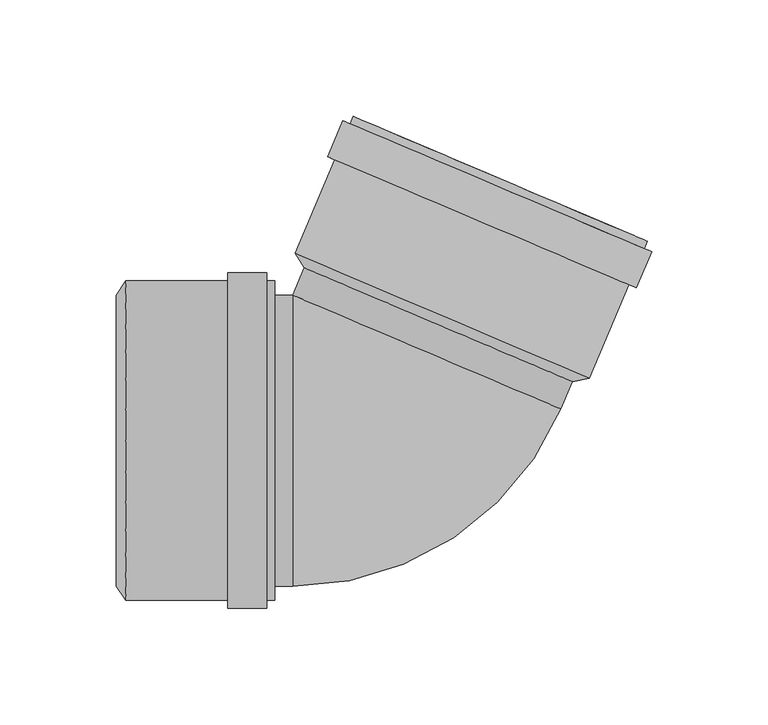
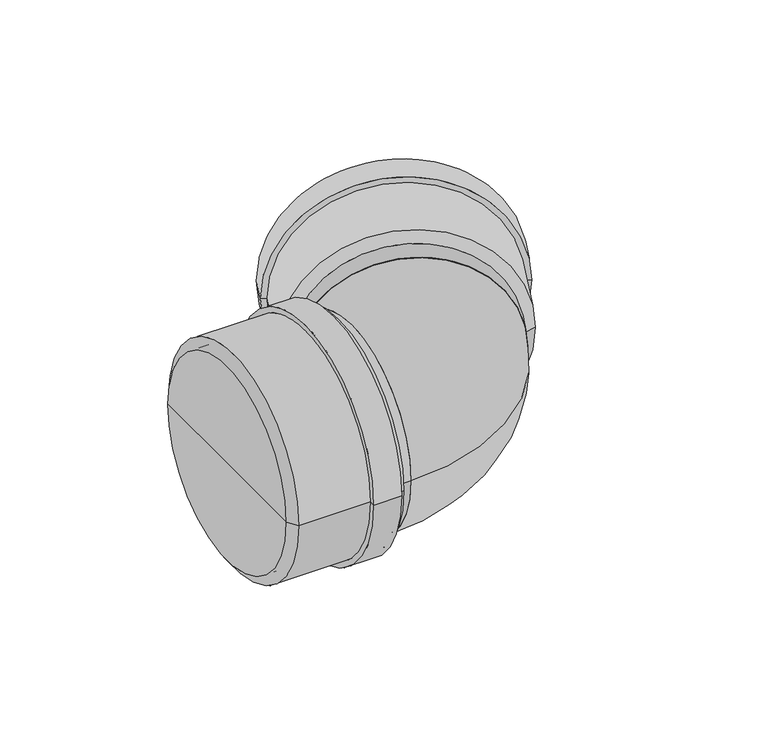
"""IFC4 building model written with IfcOpenShell, lengths in millimetres: pipe fitting geometry, pf_KGB : pf_KGB."""

from ifc_helpers import new_model, si_unit, point, frame, origin, origin_2d, place, context, project, spatial, polyline, circle_curve, ellipse_curve, trimmed, segment, composite_curve, outline, extrude, source, transform, mapped, element, save
from ifc_brep_helpers import plane_surface, cylinder_surface, revolved_surface, advanced_brep


def pipe_fitting_437f7f8f(model_context):
    return source(origin(), model_context, "Body", "SolidModel", [
        advanced_brep(
        [(78.6701074, 25.378617, 0.0), (-36.3929993, 74.2200081, 0.0), (-40.4060813, 80.3775379, 0.0), (85.8871846, 26.7692271, 0.0), (21.1385541, 49.7993126, 0.0), (110.8549037, 85.5894872, 0.0), (-15.4383622, 139.197798, 0.0), (-9.8232826, 136.8143381, 0.0), (105.2398241, 87.9729471, 0.0), (-16.766848, 136.0680815, 0.0), (109.5264179, 82.4597707, 0.0), (-19.8965645, 137.3965674, 0.0), (112.6561344, 81.1312849, 0.0), (-26.4608475, 121.9320858, 0.0), (106.0918514, 65.6668033, 0.0), (-23.331131, 120.6036, 0.0), (102.9621349, 66.9952892, 0.0), (80.272105, 29.1526869, 0.0), (-34.7910017, 77.994078, 0.0), (22.7405517, 53.5733825, 0.0)],
        [
            (0, 1, circle_curve(frame((21.1385541, 49.7993126, 0.0), z_axis=(0.39073112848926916, 0.9205048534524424, 0.0), x_axis=(-0.9205048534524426, 0.3907311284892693, 0.0)), 62.5)),
            (1, 2),
            (2, 3, circle_curve(frame((22.7405517, 53.5733825, 0.0), z_axis=(-0.39073112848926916, -0.9205048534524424, 0.0), x_axis=(-0.9205048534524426, 0.3907311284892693, 0.0)), 68.6)),
            (3, 0),
            (1, 0, circle_curve(frame((21.1385541, 49.7993126, 0.0), z_axis=(0.39073112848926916, 0.9205048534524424, 0.0), x_axis=(-0.9205048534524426, 0.3907311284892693, 0.0)), 62.5)),
            (3, 2, circle_curve(frame((22.7405517, 53.5733825, 0.0), z_axis=(-0.39073112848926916, -0.9205048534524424, 0.0), x_axis=(-0.9205048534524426, 0.3907311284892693, 0.0)), 68.6)),
            (4, 1),
            (0, 4),
            (5, 6, circle_curve(frame((47.7082708, 112.3936426, 0.0), z_axis=(0.39073112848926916, 0.9205048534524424, 0.0), x_axis=(-0.9205048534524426, 0.3907311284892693, 0.0)), 68.6)),
            (6, 7),
            (7, 8, circle_curve(frame((47.7082708, 112.3936426, 0.0), z_axis=(-0.39073112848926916, -0.9205048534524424, 0.0), x_axis=(-0.9205048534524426, 0.3907311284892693, 0.0)), 62.5)),
            (8, 5),
            (9, 10, circle_curve(frame((46.379785, 109.2639261, 0.0), z_axis=(0.39073112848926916, 0.9205048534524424, 0.0), x_axis=(-0.9205048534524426, 0.3907311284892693, 0.0)), 68.6)),
            (10, 5),
            (5, 6, circle_curve(frame((47.7082708, 112.3936426, 0.0), z_axis=(-0.39073112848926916, -0.9205048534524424, 0.0), x_axis=(-0.9205048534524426, 0.3907311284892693, 0.0)), 68.6)),
            (6, 9),
            (11, 12, circle_curve(frame((46.379785, 109.2639261, 0.0), z_axis=(0.39073112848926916, 0.9205048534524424, 0.0), x_axis=(-0.9205048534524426, 0.3907311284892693, 0.0)), 72.0)),
            (12, 10),
            (9, 11),
            (13, 14, circle_curve(frame((39.815502, 93.7994446, 0.0), z_axis=(0.39073112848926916, 0.9205048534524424, 0.0), x_axis=(-0.9205048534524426, 0.3907311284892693, 0.0)), 72.0)),
            (14, 12),
            (11, 13),
            (15, 16, circle_curve(frame((39.815502, 93.7994446, 0.0), z_axis=(0.39073112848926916, 0.9205048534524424, 0.0), x_axis=(-0.9205048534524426, 0.3907311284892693, 0.0)), 68.6)),
            (16, 14),
            (13, 15),
            (8, 7, circle_curve(frame((47.7082708, 112.3936426, 0.0), z_axis=(-0.39073112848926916, -0.9205048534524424, 0.0), x_axis=(-0.9205048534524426, 0.3907311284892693, 0.0)), 62.5)),
            (10, 9, circle_curve(frame((46.379785, 109.2639261, 0.0), z_axis=(0.39073112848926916, 0.9205048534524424, 0.0), x_axis=(-0.9205048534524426, 0.3907311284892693, 0.0)), 68.6)),
            (12, 11, circle_curve(frame((46.379785, 109.2639261, 0.0), z_axis=(0.39073112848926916, 0.9205048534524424, 0.0), x_axis=(-0.9205048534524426, 0.3907311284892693, 0.0)), 72.0)),
            (14, 13, circle_curve(frame((39.815502, 93.7994446, 0.0), z_axis=(0.39073112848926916, 0.9205048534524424, 0.0), x_axis=(-0.9205048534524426, 0.3907311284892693, 0.0)), 72.0)),
            (16, 15, circle_curve(frame((39.815502, 93.7994446, 0.0), z_axis=(0.39073112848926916, 0.9205048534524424, 0.0), x_axis=(-0.9205048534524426, 0.3907311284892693, 0.0)), 68.6)),
            (2, 15),
            (16, 3),
            (17, 18, circle_curve(frame((22.7405517, 53.5733825, 0.0), z_axis=(0.39073112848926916, 0.9205048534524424, 0.0), x_axis=(-0.9205048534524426, 0.3907311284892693, 0.0)), 62.5)),
            (18, 19),
            (19, 17),
            (18, 17, circle_curve(frame((22.7405517, 53.5733825, 0.0), z_axis=(0.39073112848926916, 0.9205048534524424, 0.0), x_axis=(-0.9205048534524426, 0.3907311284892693, 0.0)), 62.5)),
            (7, 18),
            (17, 8),
        ],
        [
            revolved_surface(polyline([(-40.4060813, 80.3775379, 0.0), (-36.3929993, 74.2200081, 0.0)]), (21.1385541, 49.7993126, 0.0), (-0.39073112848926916, -0.9205048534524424, 0.0)),
            plane_surface(frame((21.1385541, 49.7993126, 0.0), z_axis=(-0.39073112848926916, -0.9205048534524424, 0.0), x_axis=(-0.9205048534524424, 0.39073112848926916, 0.0))),
            plane_surface(frame((47.7082708, 112.3936426, 0.0), z_axis=(0.39073112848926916, 0.9205048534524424, 0.0), x_axis=(-0.9205048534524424, 0.39073112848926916, 0.0))),
            cylinder_surface(frame((21.1385541, 49.7993126, 0.0), z_axis=(-0.39073112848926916, -0.9205048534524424, 0.0), x_axis=(-0.9205048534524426, 0.3907311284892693, 0.0)), 68.6),
            plane_surface(frame((46.379785, 109.2639261, 0.0), z_axis=(0.39073112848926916, 0.9205048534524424, 0.0), x_axis=(-0.9205048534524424, 0.39073112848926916, 0.0))),
            cylinder_surface(frame((21.1385541, 49.7993126, 0.0), z_axis=(-0.39073112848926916, -0.9205048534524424, 0.0), x_axis=(-0.9205048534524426, 0.3907311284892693, 0.0)), 72.0),
            plane_surface(frame((39.815502, 93.7994446, 0.0), z_axis=(-0.39073112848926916, -0.9205048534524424, 0.0), x_axis=(-0.9205048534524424, 0.39073112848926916, 0.0))),
            plane_surface(frame((22.7405517, 53.5733825, 0.0), z_axis=(0.39073112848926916, 0.9205048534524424, 0.0), x_axis=(-0.9205048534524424, 0.39073112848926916, 0.0))),
            revolved_surface(polyline([(-34.79100164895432, 77.99407794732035, 0.0), (-9.823282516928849, 136.81433813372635, 0.0)]), (21.1385541, 49.7993126, 0.0), (-0.39073112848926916, -0.9205048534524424, 0.0)),
        ],
        [
            (0, [[1, 2, 3, 4]]),
            (0, [[5, -4, 6, -2]]),
            (1, [[7, -1, 8]]),
            (1, [[-8, -5, -7]]),
            (2, [[9, 10, 11, 12]]),
            (3, [[13, 14, 15, 16]]),
            (4, [[17, 18, -13, 19]]),
            (5, [[20, 21, -17, 22]]),
            (6, [[23, 24, -20, 25]]),
            (2, [[-15, -12, 26, -10]]),
            (3, [[27, -16, -9, -14]]),
            (4, [[28, -19, -27, -18]]),
            (5, [[29, -22, -28, -21]]),
            (6, [[30, -25, -29, -24]]),
            (3, [[-3, 31, -30, 32]]),
            (3, [[-6, -32, -23, -31]]),
            (7, [[33, 34, 35]]),
            (7, [[36, -35, -34]]),
            (8, [[-11, 37, -33, 38]]),
            (8, [[-26, -38, -36, -37]]),
        ],
    ),
        advanced_brep(
        [(-117.1, -62.5, 0.0), (-117.1, 62.5, 0.0), (-113.0, 68.6, 0.0), (-113.0, -68.6, 0.0), (-117.1, 0.0, 0.0), (-49.1, -68.6, 0.0), (-49.1, 68.6, 0.0), (-49.1, 62.5, 0.0), (-49.1, -62.5, 0.0), (-52.5, 68.6, 0.0), (-52.5, -68.6, 0.0), (-52.5, 72.0, 0.0), (-52.5, -72.0, 0.0), (-69.3, 72.0, 0.0), (-69.3, -72.0, 0.0), (-69.3, 68.6, 0.0), (-69.3, -68.6, 0.0), (-113.0, -62.5, 0.0), (-113.0, 62.5, 0.0), (-113.0, 0.0, 0.0)],
        [
            (0, 1, circle_curve(frame((-117.1, 0.0, 0.0), z_axis=(1.0, 0.0, 0.0), x_axis=(0.0, 1.0, 0.0)), 62.5)),
            (1, 2),
            (2, 3, circle_curve(frame((-113.0, 0.0, 0.0), z_axis=(-1.0, 0.0, 0.0), x_axis=(0.0, 1.0, 0.0)), 68.6)),
            (3, 0),
            (1, 0, circle_curve(frame((-117.1, 0.0, 0.0), z_axis=(1.0, 0.0, 0.0), x_axis=(0.0, 1.0, 0.0)), 62.5)),
            (3, 2, circle_curve(frame((-113.0, 0.0, 0.0), z_axis=(-1.0, 0.0, 0.0), x_axis=(0.0, 1.0, 0.0)), 68.6)),
            (4, 1),
            (0, 4),
            (5, 6, circle_curve(frame((-49.1, 0.0, 0.0), z_axis=(1.0, 0.0, 0.0), x_axis=(0.0, 1.0, 0.0)), 68.6)),
            (6, 7),
            (7, 8, circle_curve(frame((-49.1, 0.0, 0.0), z_axis=(-1.0, 0.0, 0.0), x_axis=(0.0, 1.0, 0.0)), 62.5)),
            (8, 5),
            (9, 10, circle_curve(frame((-52.5, 0.0, 0.0), z_axis=(1.0, 0.0, 0.0), x_axis=(0.0, 1.0, 0.0)), 68.6)),
            (10, 5),
            (5, 6, circle_curve(frame((-49.1, 0.0, 0.0), z_axis=(-1.0, 0.0, 0.0), x_axis=(0.0, 1.0, 0.0)), 68.6)),
            (6, 9),
            (11, 12, circle_curve(frame((-52.5, 0.0, 0.0), z_axis=(1.0, 0.0, 0.0), x_axis=(0.0, 1.0, 0.0)), 72.0)),
            (12, 10),
            (9, 11),
            (13, 14, circle_curve(frame((-69.3, 0.0, 0.0), z_axis=(1.0, 0.0, 0.0), x_axis=(0.0, 1.0, 0.0)), 72.0)),
            (14, 12),
            (11, 13),
            (15, 16, circle_curve(frame((-69.3, 0.0, 0.0), z_axis=(1.0, 0.0, 0.0), x_axis=(0.0, 1.0, 0.0)), 68.6)),
            (16, 14),
            (13, 15),
            (8, 7, circle_curve(frame((-49.1, 0.0, 0.0), z_axis=(-1.0, 0.0, 0.0), x_axis=(0.0, 1.0, 0.0)), 62.5)),
            (10, 9, circle_curve(frame((-52.5, 0.0, 0.0), z_axis=(1.0, 0.0, 0.0), x_axis=(0.0, 1.0, 0.0)), 68.6)),
            (12, 11, circle_curve(frame((-52.5, 0.0, 0.0), z_axis=(1.0, 0.0, 0.0), x_axis=(0.0, 1.0, 0.0)), 72.0)),
            (14, 13, circle_curve(frame((-69.3, 0.0, 0.0), z_axis=(1.0, 0.0, 0.0), x_axis=(0.0, 1.0, 0.0)), 72.0)),
            (16, 15, circle_curve(frame((-69.3, 0.0, 0.0), z_axis=(1.0, 0.0, 0.0), x_axis=(0.0, 1.0, 0.0)), 68.6)),
            (2, 15),
            (16, 3),
            (17, 18, circle_curve(frame((-113.0, 0.0, 0.0), z_axis=(1.0, 0.0, 0.0), x_axis=(0.0, 1.0, 0.0)), 62.5)),
            (18, 19),
            (19, 17),
            (18, 17, circle_curve(frame((-113.0, 0.0, 0.0), z_axis=(1.0, 0.0, 0.0), x_axis=(0.0, 1.0, 0.0)), 62.5)),
            (7, 18),
            (17, 8),
        ],
        [
            revolved_surface(polyline([(-113.0, 68.6, 0.0), (-117.1, 62.5, 0.0)]), (-117.1, 0.0, 0.0), (-1.0, 0.0, 0.0)),
            plane_surface(frame((-117.1, 0.0, 0.0), z_axis=(-1.0, 0.0, 0.0), x_axis=(0.0, 1.0, 0.0))),
            plane_surface(frame((-49.1, 0.0, 0.0), z_axis=(1.0, 0.0, 0.0), x_axis=(0.0, 1.0, 0.0))),
            cylinder_surface(frame((-117.1, 0.0, 0.0), z_axis=(-1.0, 0.0, 0.0), x_axis=(0.0, 1.0, 0.0)), 68.6),
            plane_surface(frame((-52.5, 0.0, 0.0), z_axis=(1.0, 0.0, 0.0), x_axis=(0.0, 1.0, 0.0))),
            cylinder_surface(frame((-117.1, 0.0, 0.0), z_axis=(-1.0, 0.0, 0.0), x_axis=(0.0, 1.0, 0.0)), 72.0),
            plane_surface(frame((-69.3, 0.0, 0.0), z_axis=(-1.0, 0.0, 0.0), x_axis=(0.0, 1.0, 0.0))),
            plane_surface(frame((-113.0, 0.0, 0.0), z_axis=(1.0, 0.0, 0.0), x_axis=(0.0, 1.0, 0.0))),
            revolved_surface(polyline([(-113.0, 62.5, 0.0), (-49.099999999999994, 62.5, 0.0)]), (-117.1, 0.0, 0.0), (-1.0, 0.0, 0.0)),
        ],
        [
            (0, [[1, 2, 3, 4]]),
            (0, [[5, -4, 6, -2]]),
            (1, [[7, -1, 8]]),
            (1, [[-8, -5, -7]]),
            (2, [[9, 10, 11, 12]]),
            (3, [[13, 14, 15, 16]]),
            (4, [[17, 18, -13, 19]]),
            (5, [[20, 21, -17, 22]]),
            (6, [[23, 24, -20, 25]]),
            (2, [[-15, -12, 26, -10]]),
            (3, [[27, -16, -9, -14]]),
            (4, [[28, -19, -27, -18]]),
            (5, [[29, -22, -28, -21]]),
            (6, [[30, -25, -29, -24]]),
            (3, [[-3, 31, -30, 32]]),
            (3, [[-6, -32, -23, -31]]),
            (7, [[33, 34, 35]]),
            (7, [[36, -35, -34]]),
            (8, [[-11, 37, -33, 38]]),
            (8, [[-26, -38, -36, -37]]),
        ],
    ),
        extrude(outline(composite_curve([segment(trimmed(circle_curve(origin_2d(), 62.5), [point((0.0, -62.5))], [point((0.0, 62.5))], False, "CARTESIAN"), True, "CONTINUOUS"), segment(trimmed(circle_curve(origin_2d(), 62.5), [point((0.0, 62.5))], [point((0.0, -62.5))], False, "CARTESIAN"), True, "CONTINUOUS")], self_intersect=False)), frame((16.1637058, 38.0793045, 0.0), z_axis=(0.39073112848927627, 0.9205048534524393, 0.0), x_axis=(0.0, 0.0, 1.0)), (0.0, 0.0, 1.0), 12.7321524),
        extrude(outline(composite_curve([segment(trimmed(circle_curve(origin_2d(), 62.5), [point((-62.5, 0.0))], [point((62.5, 0.0))], False, "CARTESIAN"), True, "CONTINUOUS"), segment(trimmed(circle_curve(origin_2d(), 62.5), [point((62.5, 0.0))], [point((-62.5, 0.0))], False, "CARTESIAN"), True, "CONTINUOUS")], self_intersect=False)), frame((-113.0, 0.0, 0.0), z_axis=(1.0, 0.0, 0.0), x_axis=(0.0, 1.0, 0.0)), (0.0, 0.0, 1.0), 71.6321524),
        advanced_brep(
        [(-41.3678476, -62.5, 0.0), (-41.3678476, 62.5, 0.0), (73.6952591, 13.6586089, 0.0)],
        [
            (0, 1, circle_curve(frame((-41.3678476, 0.0, 0.0), z_axis=(-1.0, 0.0, 0.0), x_axis=(0.0, 1.0, 0.0)), 62.5)),
            (1, 0, circle_curve(frame((-41.3678476, 0.0, 0.0), z_axis=(-1.0, 0.0, 0.0), x_axis=(0.0, 1.0, 0.0)), 62.5)),
            (2, 1, circle_curve(frame((16.1637058, 38.0793045, 0.0), z_axis=(0.39073112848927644, 0.9205048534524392, 0.0), x_axis=(-0.9205048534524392, 0.39073112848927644, 0.0)), 62.5)),
            (1, 2, circle_curve(frame((16.1637058, 38.0793045, 0.0), z_axis=(0.39073112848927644, 0.9205048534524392, 0.0), x_axis=(-0.9205048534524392, 0.39073112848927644, 0.0)), 62.5)),
            (2, 0, circle_curve(frame((-41.3678476, 62.5, 0.0), z_axis=(0.0, 0.0, -1.0), x_axis=(0.0, -1.0, 0.0)), 125.0)),
        ],
        [
            plane_surface(frame((-41.3678476, 62.5, -14.8), z_axis=(-1.0, 0.0, 0.0), x_axis=(0.0, -1.0, 0.0))),
            plane_surface(frame((-41.3678476, 62.5, -14.8), z_axis=(0.39073112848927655, 0.9205048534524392, 0.0), x_axis=(0.9205048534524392, -0.39073112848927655, 0.0))),
            revolved_surface(trimmed(ellipse_curve(frame((-41.3678476, 0.0, 0.0), z_axis=(1.0, 0.0, 0.0), x_axis=(0.0, 1.0, 0.0)), 62.5, 62.5), [point((-41.3678476, -62.5, 0.0))], [point((-41.3678476, 62.5, 0.0))], True, "CARTESIAN"), (-41.3678476, 62.5, -14.8), (0.0, 0.0, -1.0)),
            revolved_surface(trimmed(ellipse_curve(frame((-41.3678476, 0.0, 0.0), z_axis=(1.0, 0.0, 0.0), x_axis=(0.0, 1.0, 0.0)), 62.5, 62.5), [point((-41.3678476, 62.5, 0.0))], [point((-41.3678476, -62.5, 0.0))], True, "CARTESIAN"), (-41.3678476, 62.5, -14.8), (0.0, 0.0, -1.0)),
        ],
        [
            (0, [[1, 2]]),
            (1, [[3, 4]]),
            (2, [[5, -2, -3]]),
            (3, [[-1, -5, -4]]),
        ],
    ),
    ])


if __name__ == "__main__":
    model = new_model("IFC4")
    model_context = context("Model", 3, world=origin())
    ifc_project = project(units=[si_unit("LENGTHUNIT", "METRE", prefix="MILLI")], contexts=[model_context])
    site = spatial("IfcSite", under=ifc_project)
    building = spatial("IfcBuilding", under=site)
    placement = place(None, origin())
    pipe_fitting_shape = pipe_fitting_437f7f8f(model_context)
    element("IfcPipeFitting", 1, ObjectType="pf_KGB : pf_KGB", at=placement, inside=building, context=model_context, shape_type="MappedRepresentation", body=[
        mapped(pipe_fitting_shape, transform((0.0, 0.0, 0.0), x_axis=(1.0, 0.0, 0.0), y_axis=(0.0, 1.0, 0.0), z_axis=(0.0, 0.0, 1.0))),
    ])
    save(model, "model.ifc")
